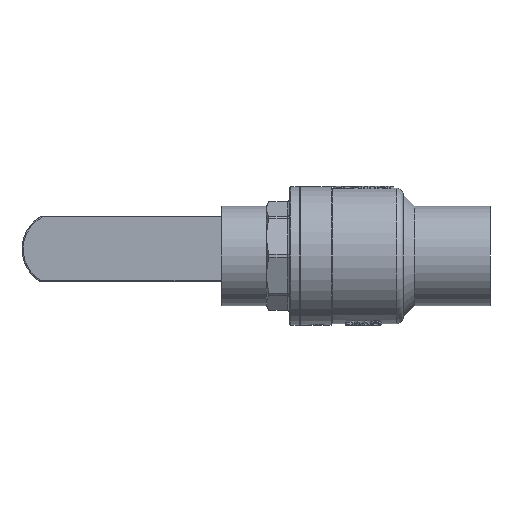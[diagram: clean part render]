
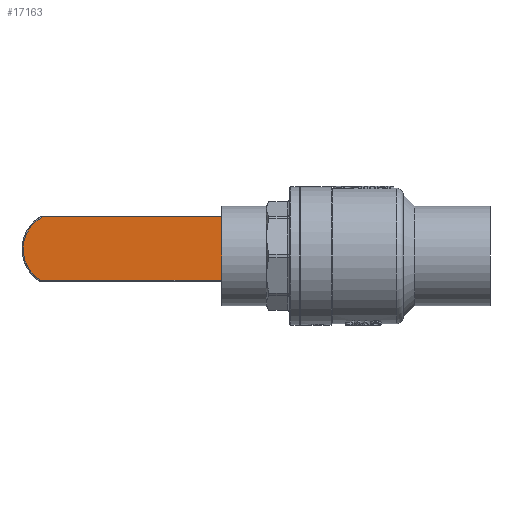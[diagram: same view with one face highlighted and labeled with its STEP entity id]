
A CAD part, front view. The second image highlights one B-rep face of the part: STEP entity #17163.
In plain terms, the highlighted planar face has unit normal (0, -1, 0).
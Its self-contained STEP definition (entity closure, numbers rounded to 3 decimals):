
#3004 = CIRCLE ( 'NONE', #62403, 15.5 ) ;
#7468 = VERTEX_POINT ( 'NONE', #71289 ) ;
#8381 = DIRECTION ( 'NONE',  ( 0., -1., 0. ) ) ;
#10935 = CARTESIAN_POINT ( 'NONE',  ( 49.971, 20.5, -13.65 ) ) ;
#13718 = EDGE_CURVE ( 'NONE', #180147, #16693, #137297, .T. ) ;
#16693 = VERTEX_POINT ( 'NONE', #19272 ) ;
#17163 = ADVANCED_FACE ( 'NONE', ( #38551 ), #59850, .F. ) ;
#19272 = CARTESIAN_POINT ( 'NONE',  ( 49.971, 20.5, 13.15 ) ) ;
#23923 = AXIS2_PLACEMENT_3D ( 'NONE', #157545, #171609, #87918 ) ;
#27732 = VECTOR ( 'NONE', #62487, 1000. ) ;
#34688 = VECTOR ( 'NONE', #142469, 1000. ) ;
#38551 = FACE_OUTER_BOUND ( 'NONE', #63447, .T. ) ;
#44777 = CARTESIAN_POINT ( 'NONE',  ( 49.971, 20.5, 13.15 ) ) ;
#46895 = EDGE_CURVE ( 'NONE', #172501, #7468, #167499, .T. ) ;
#59850 = PLANE ( 'NONE',  #23923 ) ;
#62403 = AXIS2_PLACEMENT_3D ( 'NONE', #91940, #8381, #105968 ) ;
#62487 = DIRECTION ( 'NONE',  ( 1., 0., 0. ) ) ;
#63447 = EDGE_LOOP ( 'NONE', ( #177727, #143271, #99324, #146249 ) ) ;
#71289 = CARTESIAN_POINT ( 'NONE',  ( 132.344, 20.5, -13.65 ) ) ;
#75027 = EDGE_CURVE ( 'NONE', #16693, #172501, #87409, .T. ) ;
#87409 = LINE ( 'NONE', #171600, #161779 ) ;
#87907 = DIRECTION ( 'NONE',  ( 0., 0., -1. ) ) ;
#87918 = DIRECTION ( 'NONE',  ( 0., 0., 1. ) ) ;
#91940 = CARTESIAN_POINT ( 'NONE',  ( 125., 20.5, 0. ) ) ;
#92205 = CARTESIAN_POINT ( 'NONE',  ( 133.205, 20.5, 13.15 ) ) ;
#99324 = ORIENTED_EDGE ( 'NONE', *, *, #13718, .T. ) ;
#104648 = CARTESIAN_POINT ( 'NONE',  ( 49.1, 20.5, -13.65 ) ) ;
#105968 = DIRECTION ( 'NONE',  ( 0., 0., 1. ) ) ;
#130931 = EDGE_CURVE ( 'NONE', #7468, #180147, #3004, .T. ) ;
#137297 = LINE ( 'NONE', #44777, #34688 ) ;
#142469 = DIRECTION ( 'NONE',  ( -1., 0., 0. ) ) ;
#143271 = ORIENTED_EDGE ( 'NONE', *, *, #130931, .T. ) ;
#146249 = ORIENTED_EDGE ( 'NONE', *, *, #75027, .T. ) ;
#157545 = CARTESIAN_POINT ( 'NONE',  ( 49.1, 20.5, 12.65 ) ) ;
#161779 = VECTOR ( 'NONE', #87907, 1000. ) ;
#167499 = LINE ( 'NONE', #104648, #27732 ) ;
#171600 = CARTESIAN_POINT ( 'NONE',  ( 49.971, 20.5, 12.65 ) ) ;
#171609 = DIRECTION ( 'NONE',  ( 0., 1., 0. ) ) ;
#172501 = VERTEX_POINT ( 'NONE', #10935 ) ;
#177727 = ORIENTED_EDGE ( 'NONE', *, *, #46895, .T. ) ;
#180147 = VERTEX_POINT ( 'NONE', #92205 ) ;
